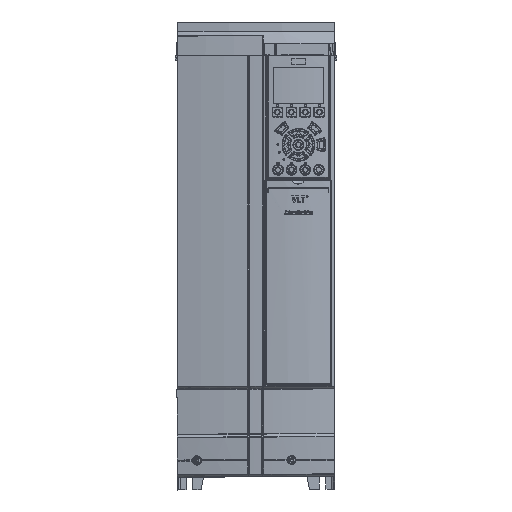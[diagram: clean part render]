
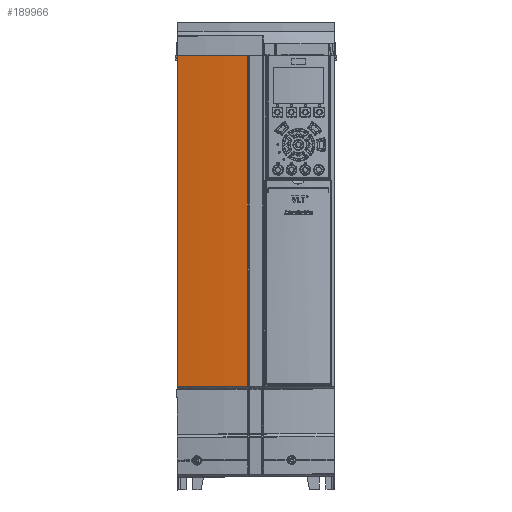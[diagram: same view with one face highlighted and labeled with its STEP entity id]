
A CAD part, top view. The second image highlights one B-rep face of the part: STEP entity #189966.
In plain terms, the highlighted cylindrical face has radius 574.02 mm (diameter 1148.04 mm), a partial arc.
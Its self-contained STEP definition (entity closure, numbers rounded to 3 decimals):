
#48878=DIRECTION('',(0.,-1.,0.));
#48879=VECTOR('',#48878,346.896);
#48880=CARTESIAN_POINT('',(-82.111,174.5,232.048));
#48881=LINE('',#48880,#48879);
#48885=CARTESIAN_POINT('',(44.923,174.5,-327.738));
#48886=DIRECTION('',(0.,1.,0.));
#48887=DIRECTION('',(-0.221,0.,0.975));
#48888=AXIS2_PLACEMENT_3D('',#48885,#48886,#48887);
#48893=DIRECTION('',(0.,1.,0.));
#48894=VECTOR('',#48893,346.896);
#48895=CARTESIAN_POINT('',(-8.928,-172.396,
243.75));
#48896=LINE('',#48895,#48894);
#48900=CARTESIAN_POINT('',(44.923,-172.396,
-327.738));
#48901=DIRECTION('',(0.,1.,0.));
#48902=DIRECTION('',(-0.221,0.,0.975));
#48903=AXIS2_PLACEMENT_3D('',#48900,#48901,#48902);
#48908=CARTESIAN_POINT('',(-82.111,-172.396,
232.048));
#48909=CARTESIAN_POINT('',(-82.108,-172.396,
232.049));
#48910=CARTESIAN_POINT('',(-82.103,-172.396,
232.05));
#48911=CARTESIAN_POINT('',(-82.097,-172.396,
232.052));
#48912=CARTESIAN_POINT('',(-82.094,-172.396,
232.052));
#48917=CARTESIAN_POINT('',(-82.111,174.5,232.048));
#48944=CARTESIAN_POINT('',(-82.111,-172.396,
232.048));
#119317=VERTEX_POINT('',#48944);
#119319=VERTEX_POINT('',#48912);
#119377=CARTESIAN_POINT('',(-8.928,-172.396,
243.75));
#119378=CARTESIAN_POINT('',(-8.928,174.5,
243.75));
#119379=VERTEX_POINT('',#119377);
#119380=VERTEX_POINT('',#119378);
#120311=VERTEX_POINT('',#48917);
#189951=CARTESIAN_POINT('',(44.923,-175.,-327.738));
#189952=DIRECTION('',(0.,1.,0.));
#189953=DIRECTION('',(0.,0.,1.));
#189954=AXIS2_PLACEMENT_3D('',#189951,#189952,#189953);
#189955=CYLINDRICAL_SURFACE('',#189954,574.02);
#189957=ORIENTED_EDGE('',*,*,#189956,.F.);
#189958=ORIENTED_EDGE('',*,*,#187318,.T.);
#189959=ORIENTED_EDGE('',*,*,#189935,.F.);
#189961=ORIENTED_EDGE('',*,*,#189960,.F.);
#189963=ORIENTED_EDGE('',*,*,#189962,.F.);
#189964=EDGE_LOOP('',(#189957,#189958,#189959,#189961,#189963));
#189965=FACE_OUTER_BOUND('',#189964,.F.);
#189966=ADVANCED_FACE('',(#189965),#189955,.T.);
#48889=CIRCLE('',#48888,574.02);
#48904=CIRCLE('',#48903,574.02);
#48913=B_SPLINE_CURVE_WITH_KNOTS('',3,(#48908,#48909,#48910,#48911,#48912),
.UNSPECIFIED.,.F.,.F.,(4,1,4),(0.,0.5,1.),.UNSPECIFIED.);
#187318=EDGE_CURVE('',#120311,#119380,#48889,.T.);
#189935=EDGE_CURVE('',#119379,#119380,#48896,.T.);
#189956=EDGE_CURVE('',#120311,#119317,#48881,.T.);
#189960=EDGE_CURVE('',#119319,#119379,#48904,.T.);
#189962=EDGE_CURVE('',#119317,#119319,#48913,.T.);
